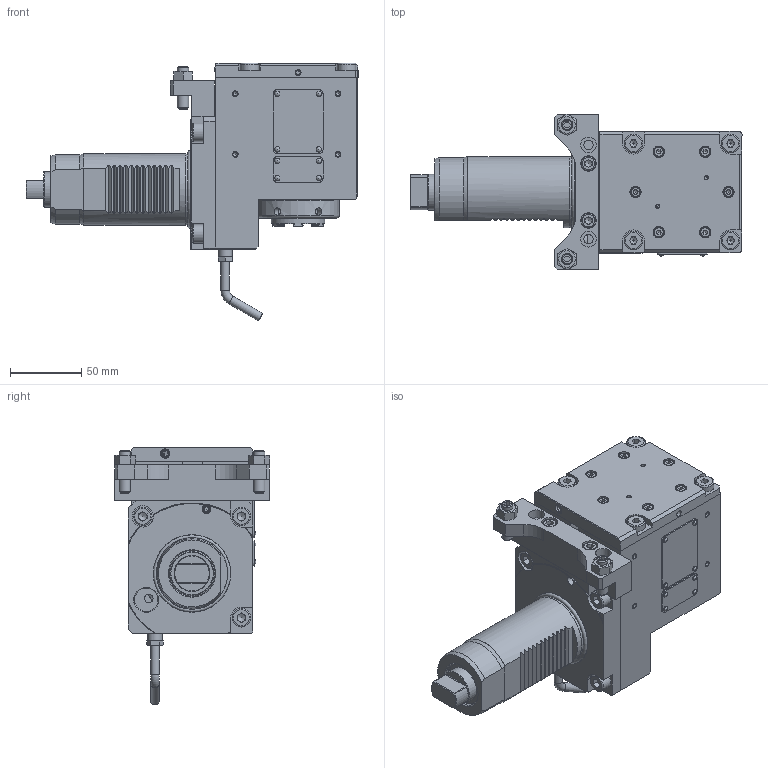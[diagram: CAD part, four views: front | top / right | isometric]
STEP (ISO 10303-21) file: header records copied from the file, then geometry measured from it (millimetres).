
FILE_DESCRIPTION(/* description */ (''),/* implementation_level */ '2;1');
FILE_NAME(/* name */ '124445-FOTO-STEP',/* time_stamp */ '2020-07-16T14:40:17+02:00',/* author */ (''),/* organization */ (''),/* preprocessor_version */ 'ST-DEVELOPER v16.5',/* originating_system */ 'HiCAD 2017 2201.0 Build 268',/* authorisation */ '');
FILE_SCHEMA (('AUTOMOTIVE_DESIGN { 1 0 10303 214 1 1 1 1 }'));
Products named in the file (187): Root; Leeres Teil; 00011481_370*; 113692_Kerbnagel 2x4_380*; 00011769_372*; DIN 912      (Innensechskant)_Zylinderschraube 8x16_404*; GEWINDE; ISO 8733-6x20-St_Zylinderstifte_460*; KZF_M10_3D; 112485_Überwurfschraube_351*; 112384_Doppelkegelring D6_352*; KANTENZUGSWEEP_0_216*; 112154_Gewindestift M6x6 Precote_421*; ȷҳ; 113934_O-Ring 8x1.5_333*; 114630_Schraube M8x16 DIN7984_402*; DIN 912      (Innensechskant)_Zylinderschraube 4x16_401*; 114086_O-Ring 75.92x1.78_331*; 114062_O-Ring 72.75x1.78_332*; 114012_O-Ring 47.29x2.6_330*; DECKEL_204*; DIN 76-M6; DIN 13-M4; DIN 76-M3; ISO 4032-M 8-6_Sechskantmutter ISO 4032-M 8-6_353*; DIN 913-M 8x30-45H_Gewindwstift DIN 913-M 8x30-45H_420*; Normteilgruppe _0; DIN 912      (Innensechskant)_Zylinderschraube 6x25_403*; 001_000X_211*; DIN 13-M8; TRANSLATIONSTEIL_0_202*; DIN 76-M8; DIN 76-M5; DIN 76-M4; DIN 13-M10x1; 00087199_200*; 113332_Schräg.Zweir. 3005.2Z_301*; 002_000X; DIN 6912 - M 4 x 10 - 8.8_Zylinderkopfschraube 4x10_400*; Gruppe 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
Assembly tree (186 placements, depth 7):
  Root
    Leeres Teil
      Leeres Teil
        Leeres Teil
          Leeres Teil
            00011481_370*
            113692_Kerbnagel 2x4_380*
            113692_Kerbnagel 2x4_380*
            113692_Kerbnagel 2x4_380*
            113692_Kerbnagel 2x4_380*
          Leeres Teil
            00011769_372*
            113692_Kerbnagel 2x4_380*
            113692_Kerbnagel 2x4_380*
            113692_Kerbnagel 2x4_380*
            113692_Kerbnagel 2x4_380*
          DIN 912      (Innensechskant)_Zylinderschraube 8x16_404*
            GEWINDE
          DIN 912      (Innensechskant)_Zylinderschraube 8x16_404*
            GEWINDE
          DIN 912      (Innensechskant)_Zylinderschraube 8x16_404*
            GEWINDE
          ISO 8733-6x20-St_Zylinderstifte_460*
            GEWINDE
          KZF_M10_3D
            112485_Überwurfschraube_351*
              (unnamed)
            112384_Doppelkegelring D6_352*
            KANTENZUGSWEEP_0_216*
          112154_Gewindestift M6x6 Precote_421*
            ȷҳ
          113934_O-Ring 8x1.5_333*
          114630_Schraube M8x16 DIN7984_402*
            GEWINDE
          114630_Schraube M8x16 DIN7984_402*
            GEWINDE
          114630_Schraube M8x16 DIN7984_402*
            GEWINDE
          114630_Schraube M8x16 DIN7984_402*
            GEWINDE
          DIN 912      (Innensechskant)_Zylinderschraube 4x16_401*
            GEWINDE
          DIN 912      (Innensechskant)_Zylinderschraube 4x16_401*
            GEWINDE
          DIN 912      (Innensechskant)_Zylinderschraube 4x16_401*
            GEWINDE
          DIN 912      (Innensechskant)_Zylinderschraube 4x16_401*
            GEWINDE
          DIN 912      (Innensechskant)_Zylinderschraube 4x16_401*
            GEWINDE
          DIN 912      (Innensechskant)_Zylinderschraube 4x16_401*
            GEWINDE
          114086_O-Ring 75.92x1.78_331*
          114062_O-Ring 72.75x1.78_332*
          114012_O-Ring 47.29x2.6_330*
        DECKEL_204*
          DIN 76-M6
          DIN 13-M4
          DIN 13-M4
          DIN 76-M3
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Bounding box: 232.5 x 109.04 x 180.56 mm (x, y, z)
Volume: 1161022.4 mm3; surface area: 444894.7 mm2
Topology: 208 solids, 208 shells, 2484 faces, 5774 edges, 3715 vertices
Faces by surface type: plane 1131, cylinder 819, cone 359, torus 118, bspline 36, sphere 21
Full cylindrical faces by diameter (mm): 2 x20, 2.2 x8, 2.387 x4, 2.5 x2, 2.7 x2, 3 x5, 3.141 x64, 3.3 x16, 4 x82, 4.019 x16, 4.1 x2, 4.2 x10, 4.3 x8, 4.5 x6, 4.773 x15, 5 x29, 5.1 x6, 6 x28, 6.1 x1, 6.25 x1, 6.3 x1, 6.466 x42, 6.6 x4, 7 x14, 8 x55, 8.773 x3, 8.92 x1, 9 x11, 10 x9, 11 x5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
Entity records: 135009 total; most frequent: CARTESIAN_POINT 37837, DIRECTION 11516, PRESENTATION_STYLE_ASSIGNMENT 8750, COLOUR_RGB 8583, DRAUGHTING_PRE_DEFINED_CURVE_FONT 8582, CURVE_STYLE 8582, OVER_RIDING_STYLED_ITEM 8582, ORIENTED_EDGE 8582
